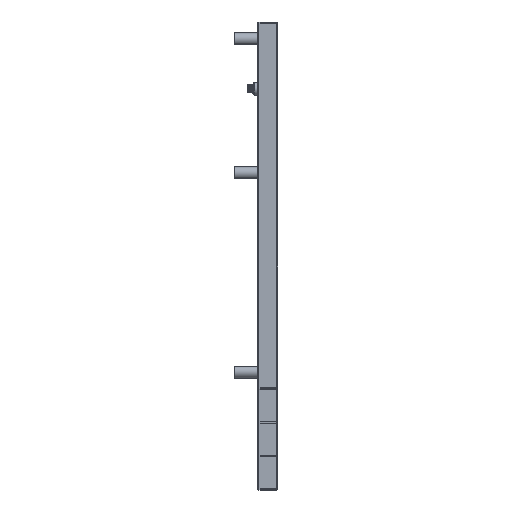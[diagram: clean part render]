
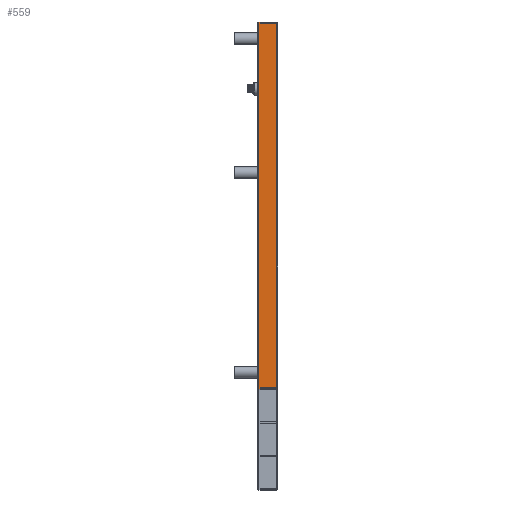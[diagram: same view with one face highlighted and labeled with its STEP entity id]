
A CAD part, top view. The second image highlights one B-rep face of the part: STEP entity #559.
In plain terms, the highlighted planar face has unit normal (0, 0, 1).
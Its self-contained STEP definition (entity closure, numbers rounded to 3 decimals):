
#559 = ADVANCED_FACE( '', ( #839 ), #840, .F. );
#839 = FACE_OUTER_BOUND( '', #1183, .T. );
#840 = PLANE( '', #1184 );
#1183 = EDGE_LOOP( '', ( #1635, #1636, #1637, #1638 ) );
#1184 = AXIS2_PLACEMENT_3D( '', #1639, #1640, #1641 );
#1635 = ORIENTED_EDGE( '', *, *, #2745, .T. );
#1636 = ORIENTED_EDGE( '', *, *, #2746, .T. );
#1637 = ORIENTED_EDGE( '', *, *, #2747, .F. );
#1638 = ORIENTED_EDGE( '', *, *, #2748, .T. );
#1639 = CARTESIAN_POINT( '', ( 15., -275., 25. ) );
#1640 = DIRECTION( '', ( 0., 0., -1. ) );
#1641 = DIRECTION( '', ( -1., 0., 0. ) );
#2745 = EDGE_CURVE( '', #3162, #3163, #3164, .T. );
#2746 = EDGE_CURVE( '', #3163, #3165, #3166, .F. );
#2747 = EDGE_CURVE( '', #3167, #3165, #3168, .T. );
#2748 = EDGE_CURVE( '', #3167, #3162, #3169, .T. );
#3162 = VERTEX_POINT( '', #3762 );
#3163 = VERTEX_POINT( '', #3763 );
#3164 = LINE( '', #3764, #3765 );
#3165 = VERTEX_POINT( '', #3766 );
#3166 = LINE( '', #3767, #3768 );
#3167 = VERTEX_POINT( '', #3769 );
#3168 = LINE( '', #3770, #3771 );
#3169 = LINE( '', #3772, #3773 );
#3762 = CARTESIAN_POINT( '', ( 13., 275., 25. ) );
#3763 = CARTESIAN_POINT( '', ( -13., 275., 25. ) );
#3764 = CARTESIAN_POINT( '', ( 15., 275., 25. ) );
#3765 = VECTOR( '', #5566, 1000. );
#3766 = CARTESIAN_POINT( '', ( -13., -275., 25. ) );
#3767 = CARTESIAN_POINT( '', ( -13., -275., 25. ) );
#3768 = VECTOR( '', #5567, 1000. );
#3769 = CARTESIAN_POINT( '', ( 13., -275., 25. ) );
#3770 = CARTESIAN_POINT( '', ( 15., -275., 25. ) );
#3771 = VECTOR( '', #5568, 1000. );
#3772 = CARTESIAN_POINT( '', ( 13., -275., 25. ) );
#3773 = VECTOR( '', #5569, 1000. );
#5566 = DIRECTION( '', ( -1., 0., 0. ) );
#5567 = DIRECTION( '', ( 0., 1., 0. ) );
#5568 = DIRECTION( '', ( -1., 0., 0. ) );
#5569 = DIRECTION( '', ( 0., 1., 0. ) );
